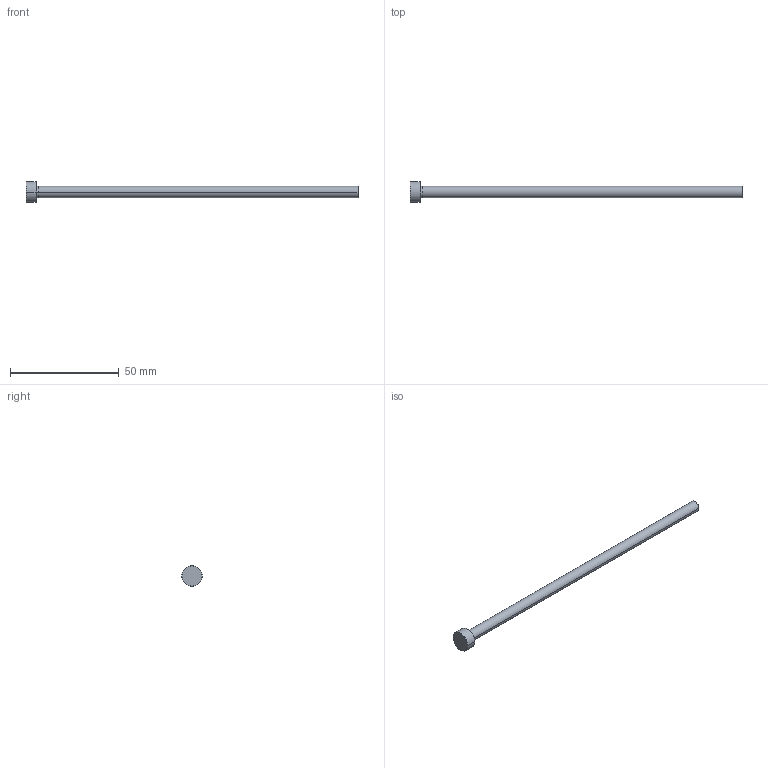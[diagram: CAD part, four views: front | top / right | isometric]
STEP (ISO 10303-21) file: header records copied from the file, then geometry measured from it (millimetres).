
FILE_DESCRIPTION (( 'STEP AP214' ), '1' );
FILE_NAME ('P14-6.STEP', '2020-03-11T18:24:37', ( '' ), ( '' ), 'SwSTEP 2.0', 'SolidWorks 2018', '' );
FILE_SCHEMA (( 'AUTOMOTIVE_DESIGN' ));
Length unit declared in the file: inch
Products named in the file (1): P14-6
Bounding box: 152.4 x 9.53 x 9.53 mm (x, y, z)
Volume: 3418.7 mm3; surface area: 2665.9 mm2
Topology: 1 solids, 1 shells, 13 faces, 24 edges, 14 vertices
Faces by surface type: cone 4, cylinder 4, plane 3, torus 2
Entity records: 366 total; most frequent: DIRECTION 68, CARTESIAN_POINT 52, ORIENTED_EDGE 48, AXIS2_PLACEMENT_3D 30, EDGE_CURVE 24, CIRCLE 16, VERTEX_POINT 14, EDGE_LOOP 14
